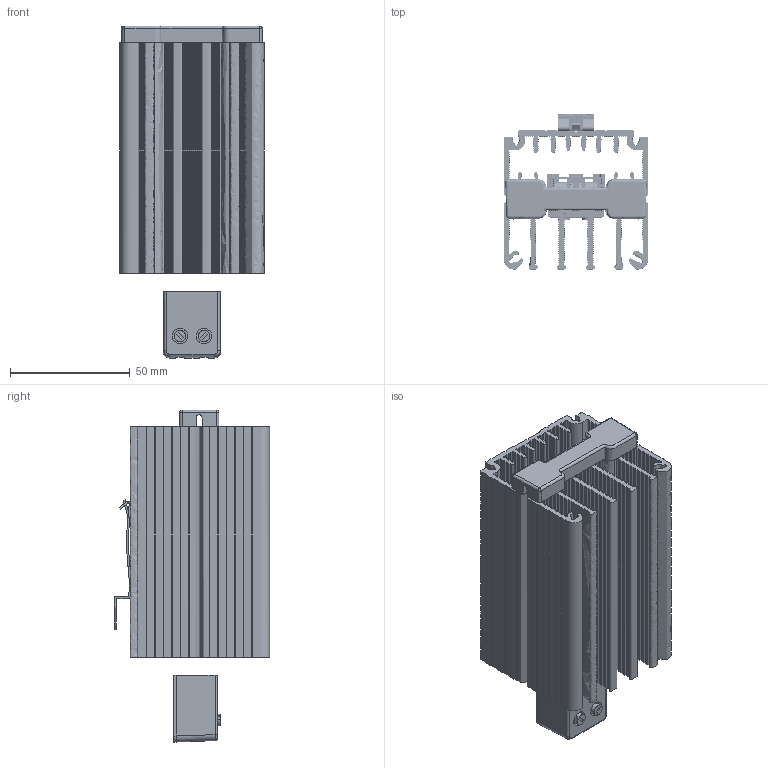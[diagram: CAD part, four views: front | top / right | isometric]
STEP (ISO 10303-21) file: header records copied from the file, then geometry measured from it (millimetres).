
FILE_DESCRIPTION(/* description */ (''),/* implementation_level */ '2;1');
FILE_NAME(/* name */ 'HT 75-100',/* time_stamp */ '2016-02-23T11:13:36+01:00',/* author */ (''),/* organization */ (''),/* preprocessor_version */ 'ST-DEVELOPER v10',/* originating_system */ '',/* authorisation */ '');
FILE_SCHEMA (('CONFIG_CONTROL_DESIGN'));
Length unit declared in the file: millimetre
Products named in the file (1): 1
Bounding box: 60.5 x 64.76 x 138.63 mm (x, y, z)
Volume: 120117.8 mm3; surface area: 126014.5 mm2
Topology: 15 solids, 15 shells, 1343 faces, 3845 edges, 2532 vertices
Faces by surface type: bspline 1168, plane 175
Entity records: 45947 total; most frequent: CARTESIAN_POINT 25658, ORIENTED_EDGE 7690, EDGE_CURVE 3845, VERTEX_POINT 2532, B_SPLINE_CURVE_WITH_KNOTS 1489, EDGE_LOOP 1367, ADVANCED_FACE 1343, FACE_OUTER_BOUND 1343
